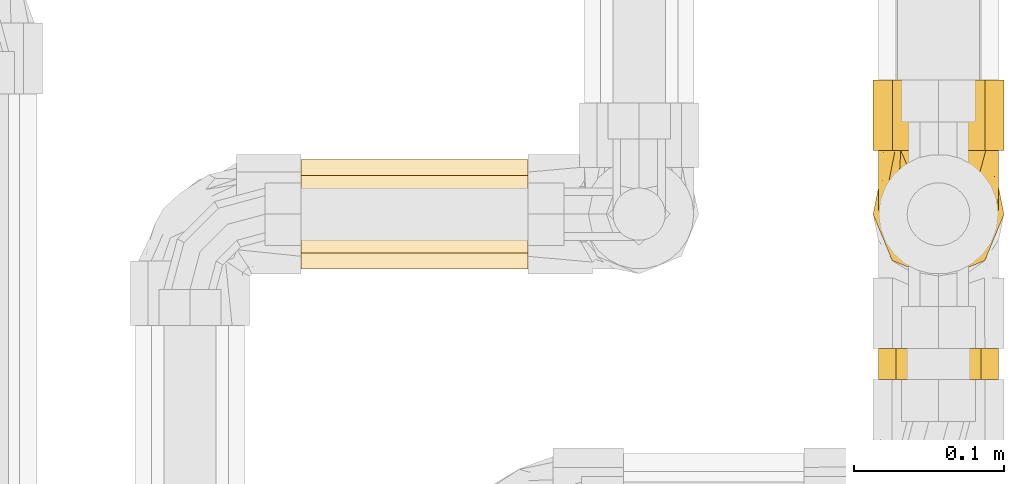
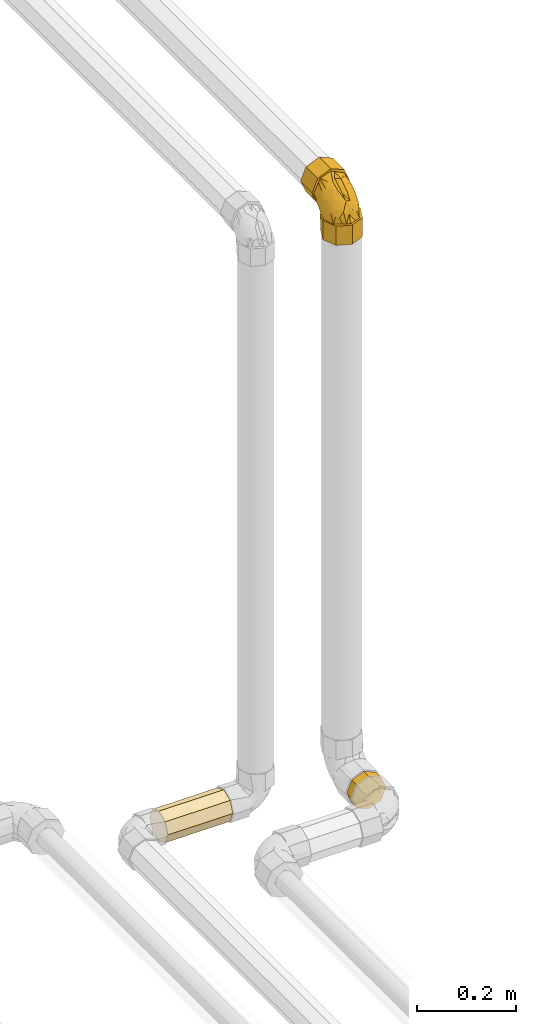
# One storey, part 272 of 652: 3 coverings.
"""IFC2X3 building model written with IfcOpenShell, lengths in millimetres."""

from ifc_helpers import new_model, entity, si_unit, converted_unit, direction, frame, origin, place, context, subcontext, project, spatial, faceted_brep, material, type_object, element, save


model = new_model("IFC2X3")

# Units and contexts
model_context = context("Model", 3, precision=0.01, world=frame((0.0, 0.0, 308426.39999999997)), true_north=direction((6.123233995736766e-17, 1.0)))
plan_context = context("Plan", 3, precision=0.01, world=frame((0.0, 0.0, 308426.39999999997)), true_north=direction((6.123233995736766e-17, 1.0)))
body_context = subcontext(model_context, "Body", "Model", "MODEL_VIEW")
ifc_project = project(units=[si_unit("LENGTHUNIT", "METRE", prefix="MILLI"), si_unit("AREAUNIT", "SQUARE_METRE"), si_unit("VOLUMEUNIT", "CUBIC_METRE"), converted_unit("PLANEANGLEUNIT", "DEGREE", entity("IfcPlaneAngleMeasure", 0.017453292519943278), si_unit("PLANEANGLEUNIT", "RADIAN"), dimensions=[0, 0, 0, 0, 0, 0, 0])], contexts=[model_context, plan_context])

# Site, building, storey
site_placement = place(None, origin())
site = spatial("IfcSite", under=ifc_project, at=site_placement, Name="Default", CompositionType="ELEMENT")
building_placement = place(site_placement, origin())
building = spatial("IfcBuilding", under=site, at=building_placement, CompositionType="ELEMENT")
storey_placement = place(building_placement, frame((0.0, 0.0, 1730.6999999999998)))
storey = spatial("IfcBuildingStorey", under=building, at=storey_placement, Name="EG_Produktion_FFB", CompositionType="ELEMENT", Elevation=1730.6999999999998)

# Coverings
ifc_material = material(Name="Dämmung - Armaflex-Schlauch")
covering_type = type_object("IfcCoveringType", Name="Rohrdämmung außen:Armaflex-Schlauch", PredefinedType="INSULATION")
covering_1_placement = place(storey_placement, frame((79576.77747546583, 78733.41483172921, 4910.280000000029)))
element("IfcCovering", 1, at=covering_1_placement, inside=storey, type_object=covering_type, material=ifc_material, Name="Rohrdämmung außen:Armaflex-Schlauch", ObjectType="Rohrdämmung außen:Armaflex-Schlauch", PredefinedType="INSULATION", context=body_context, shape_type="Brep", body=[
    faceted_brep([(1.5952722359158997, 87.85527223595, 89.72000000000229), (3.304941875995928, 87.85527223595, 81.2451084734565), (5.014611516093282, 87.85527223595, 72.77021694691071), (9.86881351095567, 87.85527223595, 65.62819273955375), (14.723015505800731, 87.85527223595, 58.48616853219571), (10.581665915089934, 87.85527223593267, 67.5997622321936), (6.440316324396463, 87.85527223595, 76.71335593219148), (5.315272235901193, 87.85527223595, 86.71350835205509), (8.85581188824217, 87.85527223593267, 94.40209709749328), (12.39635154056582, 87.85527223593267, 102.09068584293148), (16.24116612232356, 87.85527223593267, 110.44003397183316), (20.085980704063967, 87.85527223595, 118.78938210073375), (32.70062646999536, 87.85527223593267, 123.35795944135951), (45.315272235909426, 87.85527223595, 127.92653678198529), (53.1972475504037, 87.85527223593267, 123.99884456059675), (61.07922286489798, 87.85527223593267, 120.07115233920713), (68.96119817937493, 87.85527223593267, 116.14346011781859), (76.8431734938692, 87.85527223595, 112.21576789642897), (79.9118619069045, 87.85527223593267, 102.9785657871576), (82.61356707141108, 87.85527223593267, 94.84603706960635), (85.31527223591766, 87.85527223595, 86.71350835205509), (84.47655416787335, 87.85527223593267, 82.95558245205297), (83.6378360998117, 87.85527223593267, 79.19765655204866), (82.29640860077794, 87.85527223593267, 73.1873113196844), (80.95498110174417, 87.85527223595, 67.17696608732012), (75.90752896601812, 87.85527223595, 58.48616853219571), (80.76173096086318, 87.85527223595, 65.62819273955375), (85.61593295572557, 87.85527223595, 72.77021694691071), (87.32560259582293, 87.85527223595, 81.2451084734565), (89.03527223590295, 87.85527223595, 89.72000000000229), (85.55401064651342, 87.85527223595, 98.12450894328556), (82.63262647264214, 87.85527223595, 105.17735423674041), (79.43130359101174, 87.85527223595, 112.90603135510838), (76.22998070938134, 87.85527223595, 120.63470847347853), (68.50130359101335, 87.85527223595, 123.83603135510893), (60.772626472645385, 87.85527223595, 127.03735423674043), (53.719779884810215, 87.85527223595, 129.95873894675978), (45.315272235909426, 87.85527223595, 133.4400000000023), (36.910763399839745, 87.85527223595, 129.95873845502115), (29.85791799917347, 87.85527223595, 127.03735423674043), (22.129240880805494, 87.85527223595, 123.83603135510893), (14.400563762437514, 87.85527223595, 120.63470847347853), (11.19924088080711, 87.85527223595, 112.90603135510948), (7.997917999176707, 87.85527223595, 105.17735423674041), (5.076533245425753, 87.85527223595, 98.1245075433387), (85.55401120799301, 135.03527223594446, 81.31549241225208), (82.63262647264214, 135.03527223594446, 74.26264576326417), (79.43130359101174, 135.03527223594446, 66.53396864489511), (76.22998070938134, 135.03527223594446, 58.80529152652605), (68.50130359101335, 135.03527223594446, 55.60396864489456), (60.772626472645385, 135.03527223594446, 52.402645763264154), (53.0439493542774, 135.03527223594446, 49.20132288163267), (45.315272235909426, 135.03527223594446, 46.0), (36.910764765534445, 135.03527223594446, 49.481260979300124), (29.85791799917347, 135.03527223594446, 52.40264576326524), (22.129240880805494, 135.03527223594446, 55.603968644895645), (14.400563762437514, 135.03527223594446, 58.80529152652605), (11.19924088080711, 135.03527223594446, 66.53396864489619), (7.997917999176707, 135.03527223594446, 74.26264576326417), (4.796595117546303, 135.03527223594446, 81.99132288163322), (1.5952722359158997, 135.03527223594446, 89.72000000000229), (4.796595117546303, 135.03527223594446, 97.44867711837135), (7.997917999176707, 135.03527223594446, 105.17735423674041), (11.19924088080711, 135.03527223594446, 112.90603135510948), (14.400563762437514, 135.03527223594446, 120.63470847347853), (22.129240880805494, 135.03527223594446, 123.83603135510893), (29.85791799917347, 135.03527223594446, 127.03735423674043), (37.58659511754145, 135.03527223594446, 130.23867711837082), (45.315272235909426, 135.03527223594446, 133.4400000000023), (53.0439493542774, 135.03527223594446, 130.23867711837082), (60.772626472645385, 135.03527223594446, 127.03735423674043), (68.50130359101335, 135.03527223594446, 123.83603135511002), (76.22998070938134, 135.03527223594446, 120.63470847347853), (79.15136474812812, 135.03527223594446, 113.581863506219), (82.0727487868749, 135.03527223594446, 106.52901853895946), (85.55401051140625, 135.03527223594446, 98.12450926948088), (89.03527223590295, 135.03527223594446, 89.72000000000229), (45.315272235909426, 94.75489207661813, 46.0), (58.96774864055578, 93.70357391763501, 48.186299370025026), (67.43763880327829, 90.7794230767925, 53.336233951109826), (35.33597719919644, 93.56571370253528, 48.41075141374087), (25.35668216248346, 92.37653532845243, 50.82150282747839), (20.039848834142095, 90.11590378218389, 54.65383567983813), (1.5952722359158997, 45.31527223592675, 47.179999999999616), (5.076533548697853, 36.910763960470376, 47.179999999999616), (7.997917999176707, 29.857917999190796, 47.179999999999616), (11.19924088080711, 22.129240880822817, 47.179999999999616), (14.400563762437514, 14.40056376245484, 47.179999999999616), (22.129240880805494, 11.199240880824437, 47.179999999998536), (29.85791799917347, 7.9979179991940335, 47.179999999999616), (36.91076472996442, 5.076533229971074, 47.179999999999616), (45.315272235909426, 1.5952722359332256, 47.179999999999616), (53.71978088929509, 5.076533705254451, 47.179999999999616), (60.772626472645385, 7.9979179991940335, 47.179999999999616), (68.50130359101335, 11.199240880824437, 47.179999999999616), (76.22998070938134, 14.40056376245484, 47.179999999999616), (79.43130359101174, 22.129240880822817, 47.179999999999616), (82.63262647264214, 29.857917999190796, 47.179999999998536), (85.55401103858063, 36.91076423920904, 47.180000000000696), (89.03527223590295, 45.31527223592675, 47.179999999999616), (87.32560271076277, 53.79016348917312, 47.179999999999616), (85.61593318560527, 62.26505474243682, 47.179999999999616), (80.76173107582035, 69.4070792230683, 47.179999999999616), (75.90752896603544, 76.54910370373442, 47.179999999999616), (80.04887855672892, 67.43551000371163, 47.179999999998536), (84.19022814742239, 58.32191630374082, 47.179999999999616), (85.31527223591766, 48.321763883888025, 47.179999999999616), (81.7747326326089, 40.63317524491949, 47.179999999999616), (78.23419302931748, 32.94458660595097, 47.179999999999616), (74.38937839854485, 24.59523837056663, 47.179999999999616), (70.54456376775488, 16.245890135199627, 47.179999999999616), (57.929918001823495, 11.677312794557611, 47.179999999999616), (45.315272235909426, 7.108735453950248, 47.179999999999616), (37.66448146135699, 10.921225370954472, 47.179999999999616), (30.013690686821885, 14.733715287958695, 47.179999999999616), (21.900530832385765, 18.776609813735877, 47.179999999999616), (13.78737097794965, 22.81950433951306, 47.179999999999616), (10.718682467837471, 32.0567067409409, 47.179999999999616), (8.016977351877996, 40.1892353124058, 47.179999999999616), (5.315272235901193, 48.321763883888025, 47.179999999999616), (6.153990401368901, 52.07969022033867, 47.179999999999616), (6.992708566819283, 55.83761655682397, 47.179999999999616), (8.334135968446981, 61.847961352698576, 47.179999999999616), (9.675563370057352, 67.85830614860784, 47.179999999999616), (14.723015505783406, 76.54910370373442, 47.179999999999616), (9.868813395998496, 69.4070792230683, 47.179999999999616), (5.014611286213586, 62.26505474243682, 47.179999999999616), (3.3049417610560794, 53.79016348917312, 47.179999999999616), (76.22998070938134, 14.40056376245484, 0.0), (69.17713564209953, 11.479179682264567, 0.0), (62.12429057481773, 8.55779560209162, 0.0), (53.71978140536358, 5.07653391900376, 0.0), (45.315272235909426, 1.5952722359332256, 0.0), (37.58659511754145, 4.796595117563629, 0.0), (29.85791799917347, 7.9979179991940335, 0.0), (22.129240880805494, 11.199240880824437, 0.0), (14.400563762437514, 14.40056376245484, 0.0), (11.479179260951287, 21.453409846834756, 0.0), (8.557794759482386, 28.506255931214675, 0.0), (5.0765334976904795, 36.91076408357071, 0.0), (1.5952722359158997, 45.31527223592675, 0.0), (5.076533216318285, 53.71977970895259, 0.0), (7.997917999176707, 60.77262647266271, 0.0), (11.19924088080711, 68.50130359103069, 0.0), (14.400563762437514, 76.22998070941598, 0.0), (22.129240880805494, 79.43130359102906, 0.0), (29.85791799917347, 82.63262647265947, 0.0), (37.58659511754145, 85.83394935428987, 0.0), (45.315272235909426, 89.0352722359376, 0.0), (53.719779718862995, 85.55401125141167, 0.0), (60.772626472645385, 82.63262647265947, 0.0), (68.50130359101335, 79.43130359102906, 0.0), (76.22998070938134, 76.22998070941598, 0.0), (79.43130359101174, 68.50130359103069, 0.0), (82.63262647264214, 60.77262647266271, 0.0), (85.55401051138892, 53.71978150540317, 0.0), (89.03527223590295, 45.31527223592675, 0.0), (85.83394935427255, 37.58659511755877, 0.0), (82.63262647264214, 29.857917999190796, 0.0), (79.43130359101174, 22.129240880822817, 0.0), (55.29456727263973, 86.62452082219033, 41.46955853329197), (45.315272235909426, 89.03527223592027, 40.28038015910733), (65.27386230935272, 84.21376940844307, 42.658736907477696), (70.59069563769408, 80.38143655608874, 44.919368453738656), (31.662795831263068, 86.84897286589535, 41.331698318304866), (23.192905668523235, 81.69903828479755, 44.2558491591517), (77.8658762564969, 66.03128520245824, 102.49262153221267), (82.84467162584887, 55.76616911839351, 83.60598863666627), (82.52556184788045, 70.75443349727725, 95.30418911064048), (84.62352217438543, 53.30419653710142, 71.60753704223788), (85.31527223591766, 55.83084240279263, 59.43767565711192), (85.31527223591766, 56.9275078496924, 61.227851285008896), (85.31527223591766, 60.133714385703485, 66.46160129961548), (85.31527223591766, 63.339920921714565, 71.69535131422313), (84.76623114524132, 67.29968041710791, 83.66921529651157), (66.05232360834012, 72.12613198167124, 117.40427550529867), (72.22141766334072, 70.7415962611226, 111.85790663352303), (71.71080253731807, 25.80972513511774, 70.85529611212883), (78.22924719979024, 32.33216175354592, 67.52213053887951), (62.809495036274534, 26.756767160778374, 83.79232970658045), (64.91193348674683, 17.55875847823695, 64.52790148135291), (75.72471560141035, 45.32915426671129, 90.43203439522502), (73.02350929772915, 55.644074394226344, 102.66187322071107), (68.32454403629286, 40.24215163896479, 94.87008754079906), (79.98762004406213, 44.412957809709, 80.53327920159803), (45.315272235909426, 72.64450076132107, 118.67320029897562), (55.59342986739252, 65.21420834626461, 119.31424049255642), (54.752738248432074, 26.986586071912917, 89.03482051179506), (55.29732490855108, 16.736109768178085, 72.15163275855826), (82.65380542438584, 41.63565492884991, 66.97723217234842), (66.96108775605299, 57.10810929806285, 109.32130855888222), (55.48321494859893, 40.52288095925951, 103.31508755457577), (62.6247388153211, 44.54577280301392, 103.30286827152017), (45.315272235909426, 27.01218633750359, 90.91319084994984), (45.315272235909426, 15.314765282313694, 65.21083649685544), (45.315272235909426, 57.433729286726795, 109.41986381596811), (45.315272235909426, 42.22295781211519, 100.16652733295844), (85.31527223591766, 52.624635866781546, 54.20392564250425), (85.31527223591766, 68.57367143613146, 74.90155815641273), (85.31527223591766, 73.80742195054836, 78.10776499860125), (85.31527223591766, 80.83134709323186, 82.41063667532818), (85.31527223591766, 84.34330966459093, 84.56207251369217), (84.11551811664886, 63.3057983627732, 56.258861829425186), (84.10693973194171, 67.67516595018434, 62.03791845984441), (83.79173661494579, 78.5151450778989, 70.1056631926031), (84.6791196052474, 69.99439310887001, 68.23490048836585), (82.61861058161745, 75.12919781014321, 62.994335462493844), (81.34638912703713, 71.60390920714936, 54.79248262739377), (45.315272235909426, 91.62419216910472, 43.411080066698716), (69.27986326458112, 85.77416460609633, 48.83507298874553), (77.75187936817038, 79.8908501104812, 55.14442201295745), (81.12154294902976, 82.0024111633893, 64.13683945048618), (8.011933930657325, 72.04093705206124, 59.9060745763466), (9.284155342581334, 80.24279019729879, 63.43136347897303), (12.878664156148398, 79.89084918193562, 55.14442294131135), (5.315272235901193, 73.80742195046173, 78.10776499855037), (5.315272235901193, 75.59759657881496, 79.20442983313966), (5.315272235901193, 80.83134709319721, 82.41063667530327), (21.350681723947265, 86.2001997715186, 49.261107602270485), (9.509001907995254, 70.89843373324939, 53.03286108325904), (6.838807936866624, 64.92960889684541, 56.520126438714), (6.52360470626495, 72.99735331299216, 67.36010606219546), (5.951424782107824, 66.80037051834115, 65.04087848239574), (5.315272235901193, 63.339920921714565, 71.69535131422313), (6.5150263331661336, 78.7764098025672, 71.72947358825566), (5.315272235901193, 68.5736714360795, 74.90155815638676), (5.315272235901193, 50.47319987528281, 50.69196282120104), (5.315272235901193, 52.62463586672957, 54.20392564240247), (5.315272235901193, 56.927507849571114, 61.2278512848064), (5.315272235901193, 60.1337143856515, 66.46160129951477), (18.716447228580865, 22.972542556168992, 64.51661720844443), (24.918359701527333, 17.40545564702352, 62.89172374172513), (23.797144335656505, 25.59429383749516, 77.888432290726), (31.915050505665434, 32.30040737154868, 93.66203085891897), (23.59450518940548, 39.028871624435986, 94.88135093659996), (36.27135106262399, 65.25953143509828, 119.67254054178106), (33.851954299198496, 17.555433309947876, 72.87900692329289), (6.007022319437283, 63.427735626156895, 81.73107619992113), (7.977727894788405, 68.05540963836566, 93.40104666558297), (7.785872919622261, 51.42928442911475, 79.26910431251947), (10.643004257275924, 54.49855667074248, 90.61961422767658), (8.104982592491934, 39.731083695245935, 64.28083963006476), (5.86431334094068, 51.366056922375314, 67.73559194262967), (14.905829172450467, 44.60323981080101, 89.70612046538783), (12.764668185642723, 32.542651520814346, 69.00398843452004), (17.67010013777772, 32.29248434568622, 79.38016234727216), (18.662195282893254, 63.82623404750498, 108.77974526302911), (12.346778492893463, 68.19116674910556, 102.96803980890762), (27.95946128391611, 51.50952341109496, 108.54428370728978), (27.504504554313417, 70.38974905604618, 118.44866051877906), (37.02608684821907, 44.98128137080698, 107.59283931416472)], [[[0, 1, 2, 3, 4, 5, 6, 7, 8, 9, 10, 11, 12, 13, 14, 15, 16, 17, 18, 19, 20, 21, 22, 23, 24, 25, 26, 27, 28, 29, 30, 31, 32, 33, 34, 35, 36, 37, 38, 39, 40, 41, 42, 43, 44]], [[45, 46, 47, 48, 49, 50, 51, 52, 53, 54, 55, 56, 57, 58, 59, 60, 61, 62, 63, 64, 65, 66, 67, 68, 69, 70, 71, 72, 73, 74, 75, 76]], [[45, 27, 47, 46]], [[77, 51, 78]], [[78, 50, 79]], [[51, 77, 52]], [[25, 79, 49]], [[27, 45, 28]], [[48, 26, 25]], [[51, 50, 78]], [[76, 28, 45]], [[76, 29, 28]], [[47, 27, 26]], [[26, 48, 47]], [[25, 49, 48]], [[79, 50, 49]], [[30, 29, 76, 75, 74, 73, 72, 33, 32, 31]], [[33, 72, 71, 70, 69, 68, 37, 36, 35, 34]], [[0, 44, 43, 42, 41, 64, 63, 62, 61, 60]], [[66, 65, 64, 41, 40, 39, 38, 37, 68, 67]], [[3, 57, 56]], [[60, 59, 0]], [[80, 54, 53]], [[58, 2, 1]], [[58, 57, 2]], [[55, 81, 82, 4]], [[53, 77, 80]], [[2, 57, 3]], [[1, 59, 58]], [[56, 4, 3]], [[54, 80, 81]], [[0, 59, 1]], [[53, 52, 77]], [[55, 4, 56]], [[55, 54, 81]], [[83, 84, 85, 86, 87, 88, 89, 90, 91, 92, 93, 94, 95, 96, 97, 98, 99, 100, 101, 102, 103, 104, 105, 106, 107, 108, 109, 110, 111, 112, 113, 114, 115, 116, 117, 118, 119, 120, 121, 122, 123, 124, 125, 126, 127]], [[128, 129, 130, 131, 132, 133, 134, 135, 136, 137, 138, 139, 140, 141, 142, 143, 144, 145, 146, 147, 148, 149, 150, 151, 152, 153, 154, 155, 156, 157, 158, 159]], [[130, 129, 128, 95, 94, 93, 92, 91, 132, 131]], [[95, 128, 159, 158, 157, 156, 99, 98, 97, 96]], [[102, 153, 152]], [[160, 150, 149]], [[99, 156, 100]], [[154, 153, 101, 155]], [[155, 101, 100]], [[149, 161, 160]], [[101, 153, 102]], [[151, 162, 163, 103]], [[152, 103, 102]], [[150, 160, 162]], [[156, 155, 100]], [[149, 148, 161]], [[151, 103, 152]], [[151, 150, 162]], [[125, 144, 143]], [[140, 83, 127]], [[161, 147, 164]], [[164, 146, 165]], [[147, 161, 148]], [[144, 125, 124]], [[126, 141, 127]], [[143, 142, 141, 126]], [[124, 145, 144]], [[140, 127, 141]], [[147, 146, 164]], [[143, 126, 125]], [[124, 165, 145]], [[165, 146, 145]], [[84, 83, 140, 139, 138, 137, 136, 87, 86, 85]], [[87, 136, 135, 134, 133, 132, 91, 90, 89, 88]], [[166, 167, 168]], [[169, 170, 171, 172, 173]], [[19, 168, 174]], [[17, 166, 18]], [[175, 176, 16]], [[177, 109, 178]], [[179, 180, 177]], [[181, 182, 183]], [[166, 181, 184]], [[14, 185, 186]], [[187, 188, 179]], [[184, 189, 167]], [[182, 181, 166]], [[176, 175, 190]], [[186, 191, 192]], [[166, 184, 167]], [[169, 174, 167]], [[188, 193, 194]], [[110, 109, 177]], [[190, 175, 186]], [[175, 16, 15]], [[186, 175, 15]], [[176, 190, 182]], [[186, 15, 14]], [[186, 195, 191]], [[196, 193, 187]], [[179, 183, 192]], [[184, 178, 189]], [[191, 195, 196]], [[178, 109, 108]], [[183, 177, 181]], [[178, 108, 189]], [[181, 177, 178]], [[189, 108, 107]], [[107, 106, 197, 170]], [[170, 169, 107]], [[169, 173, 174]], [[167, 189, 169]], [[107, 169, 189]], [[174, 173, 198, 199, 200, 201, 20]], [[174, 20, 19]], [[168, 19, 18]], [[166, 168, 18]], [[174, 168, 167]], [[111, 180, 188]], [[110, 177, 180]], [[194, 112, 111]], [[178, 184, 181]], [[188, 180, 179]], [[111, 110, 180]], [[179, 191, 187]], [[111, 188, 194]], [[187, 191, 196]], [[193, 188, 187]], [[192, 183, 190]], [[177, 183, 179]], [[166, 17, 176]], [[183, 182, 190]], [[166, 176, 182]], [[17, 16, 176]], [[185, 14, 13]], [[185, 195, 186]], [[186, 192, 190]], [[179, 192, 191]], [[172, 202, 203]], [[204, 205, 206]], [[23, 22, 21, 20, 201, 200, 199]], [[202, 104, 207]], [[208, 77, 78]], [[203, 173, 172]], [[203, 202, 207]], [[105, 104, 202]], [[163, 162, 209]], [[203, 205, 173]], [[197, 106, 105, 171, 170]], [[207, 206, 203]], [[210, 207, 103]], [[104, 103, 207]], [[160, 161, 208]], [[210, 163, 209]], [[206, 207, 210]], [[210, 25, 211]], [[204, 211, 24]], [[209, 25, 210]], [[78, 79, 25, 209]], [[105, 202, 171]], [[210, 103, 163]], [[78, 209, 162]], [[205, 203, 206]], [[172, 171, 202]], [[206, 211, 204]], [[204, 198, 205]], [[204, 24, 23]], [[210, 211, 206]], [[199, 204, 23]], [[198, 204, 199]], [[198, 173, 205]], [[25, 24, 211]], [[78, 160, 208]], [[78, 162, 160]], [[212, 213, 214]], [[6, 215, 216, 217, 7]], [[82, 218, 214]], [[219, 123, 220]], [[214, 213, 4]], [[5, 4, 213]], [[221, 222, 223]], [[208, 80, 77]], [[218, 124, 214]], [[161, 164, 208]], [[214, 124, 219]], [[6, 5, 224]], [[82, 81, 218]], [[224, 5, 213]], [[225, 224, 221]], [[220, 222, 212]], [[122, 121, 120, 119, 226, 227, 228]], [[164, 165, 124, 218]], [[221, 223, 225]], [[213, 212, 221]], [[221, 224, 213]], [[6, 224, 215]], [[214, 4, 82]], [[164, 218, 81]], [[222, 221, 212]], [[225, 215, 224]], [[212, 219, 220]], [[220, 229, 222]], [[220, 123, 122]], [[214, 219, 212]], [[228, 220, 122]], [[229, 220, 228]], [[229, 223, 222]], [[124, 123, 219]], [[164, 80, 208]], [[164, 81, 80]], [[230, 115, 231]], [[232, 233, 234]], [[12, 235, 13]], [[113, 194, 236]], [[237, 216, 215, 225, 223]], [[236, 232, 231]], [[238, 239, 240]], [[230, 231, 232]], [[118, 241, 242]], [[243, 244, 245]], [[246, 10, 247]], [[116, 244, 117]], [[244, 243, 240]], [[244, 239, 241]], [[248, 249, 246]], [[247, 238, 240]], [[237, 242, 239]], [[232, 236, 233]], [[250, 193, 196, 195]], [[113, 236, 114]], [[233, 248, 234]], [[113, 112, 194]], [[193, 236, 194]], [[236, 193, 233]], [[233, 250, 248]], [[231, 115, 114]], [[248, 250, 235]], [[248, 235, 249]], [[235, 250, 195]], [[235, 195, 185, 13]], [[235, 12, 249]], [[12, 11, 249]], [[246, 249, 11]], [[10, 9, 247]], [[234, 246, 243]], [[246, 234, 248]], [[245, 234, 243]], [[246, 11, 10]], [[247, 9, 238]], [[243, 246, 247]], [[238, 9, 8]], [[8, 7, 217, 216]], [[216, 237, 8]], [[237, 223, 242]], [[239, 238, 237]], [[8, 237, 238]], [[242, 223, 229, 228, 227, 226, 119]], [[242, 119, 118]], [[241, 118, 117]], [[244, 241, 117]], [[242, 241, 239]], [[244, 240, 239]], [[247, 240, 243]], [[193, 250, 233]], [[236, 231, 114]], [[230, 232, 245]], [[244, 116, 230]], [[234, 245, 232]], [[244, 230, 245]], [[116, 115, 230]]]),
])
covering_2_placement = place(storey_placement, frame((79580.49747546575, 78668.450103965, 3558.404727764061)))
element("IfcCovering", 2, at=covering_2_placement, inside=storey, type_object=covering_type, material=ifc_material, Name="Rohrdämmung außen:Armaflex-Schlauch", ObjectType="Rohrdämmung außen:Armaflex-Schlauch", PredefinedType="INSULATION", context=body_context, shape_type="Brep", body=[
    faceted_brep([(69.87954348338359, 20.560000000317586, 13.31100098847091), (62.80847567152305, 20.56000000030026, 10.382068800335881), (55.737407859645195, 20.56000000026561, 7.453136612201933), (48.66634004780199, 20.560000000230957, 4.524204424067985), (41.595272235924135, 20.560000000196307, 1.595272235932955), (33.15635252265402, 20.560000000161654, 5.090787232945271), (27.45313661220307, 20.560000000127, 7.453136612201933), (20.382068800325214, 20.56000000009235, 10.382068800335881), (13.311000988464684, 20.560000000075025, 13.31100098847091), (10.382068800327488, 20.5600000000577, 20.382068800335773), (7.453136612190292, 20.56000000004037, 27.453136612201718), (4.524204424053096, 20.56000000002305, 34.52420442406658), (1.5952722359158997, 20.560000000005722, 41.595272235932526), (5.090787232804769, 20.560000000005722, 50.0341919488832), (7.453136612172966, 20.560000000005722, 55.73740785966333), (10.382068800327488, 20.56000000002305, 62.80847567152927), (13.311000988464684, 20.56000000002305, 69.87954348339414), (20.382068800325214, 20.5600000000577, 72.80847567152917), (27.45313661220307, 20.56000000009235, 75.73740785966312), (34.524204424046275, 20.560000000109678, 78.66634004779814), (41.595272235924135, 20.560000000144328, 81.5952722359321), (50.03419194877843, 20.56000000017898, 78.09975723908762), (55.737407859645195, 20.560000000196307, 75.7374078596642), (62.80847567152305, 20.560000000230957, 72.80847567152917), (69.87954348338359, 20.56000000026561, 69.87954348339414), (72.80847567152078, 20.560000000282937, 62.80847567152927), (75.73740785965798, 20.56000000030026, 55.73740785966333), (78.66634004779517, 20.560000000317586, 48.66634004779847), (81.59527223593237, 20.560000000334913, 41.595272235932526), (78.09975723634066, 20.560000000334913, 33.15635251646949), (75.73740785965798, 20.560000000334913, 27.453136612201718), (72.80847567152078, 20.560000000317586, 20.38206880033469), (69.87954348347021, 0.0, 69.8795434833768), (58.47311166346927, 0.0, 74.6042422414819), (50.034191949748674, 0.0, 78.09975723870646), (41.595272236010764, 0.0, 81.59527223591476), (34.524204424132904, 0.0, 78.66634004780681), (27.453136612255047, 0.0, 75.73740785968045), (20.382068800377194, 0.0, 72.80847567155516), (13.311000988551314, 0.0, 69.8795434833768), (8.586302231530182, 0.0, 58.47311166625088), (5.090787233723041, 0.0, 50.03419195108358), (1.595272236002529, 0.0, 41.595272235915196), (4.524204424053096, 0.0, 34.52420442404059), (7.453136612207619, 0.0, 27.453136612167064), (10.38206880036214, 0.0, 20.38206880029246), (13.311000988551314, 0.0, 13.311000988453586), (24.71743279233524, 0.0, 8.58630223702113), (33.15635251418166, 0.0, 5.090787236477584), (41.595272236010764, 0.0, 1.595272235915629), (50.0341944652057, 0.0, 5.090788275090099), (55.737407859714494, 0.0, 7.453136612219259), (62.8084756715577, 0.0, 10.38206880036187), (69.87954348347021, 0.0, 13.311000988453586), (74.60424214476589, 0.0, 24.717432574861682), (78.09975719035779, 0.0, 33.15635240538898), (81.595272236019, 0.0, 41.595272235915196), (78.6663400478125, 0.0, 48.66634004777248), (75.7374078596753, 0.0, 55.73740785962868), (72.80847567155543, 0.0, 62.80847567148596)], [[[0, 1, 2, 3, 4, 5, 6, 7, 8, 9, 10, 11, 12, 13, 14, 15, 16, 17, 18, 19, 20, 21, 22, 23, 24, 25, 26, 27, 28, 29, 30, 31]], [[32, 33, 34, 35, 36, 37, 38, 39, 40, 41, 42, 43, 44, 45, 46, 47, 48, 49, 50, 51, 52, 53, 54, 55, 56, 57, 58, 59]], [[55, 54, 53, 0, 31, 30, 29, 28, 56]], [[50, 49, 4, 3, 2, 1, 0, 53, 52, 51]], [[48, 47, 46, 8, 7, 6, 5, 4, 49]], [[8, 46, 45, 44, 43, 42, 12, 11, 10, 9]], [[41, 40, 39, 16, 15, 14, 13, 12, 42]], [[16, 39, 38, 37, 36, 35, 20, 19, 18, 17]], [[34, 33, 32, 24, 23, 22, 21, 20, 35]], [[24, 32, 59, 58, 57, 56, 28, 27, 26, 25]]]),
])
covering_3_placement = place(storey_placement, frame((79196.34274770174, 78740.63483172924, 3561.904727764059)))
element("IfcCovering", 3, at=covering_3_placement, inside=storey, type_object=covering_type, material=ifc_material, Name="Rohrdämmung außen:Armaflex-Schlauch", ObjectType="Rohrdämmung außen:Armaflex-Schlauch", PredefinedType="INSULATION", context=body_context, shape_type="Brep", body=[
    faceted_brep([(0.0, 63.9046697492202, 63.90466974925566), (0.0, 66.57732037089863, 57.45232037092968), (0.0, 69.24997099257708, 50.99997099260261), (0.0, 71.9226216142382, 44.54762161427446), (0.0, 74.59527223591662, 38.09527223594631), (0.0, 71.92262161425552, 31.642922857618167), (0.0, 69.24997099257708, 25.190573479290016), (0.0, 66.57732037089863, 18.738224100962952), (0.0, 63.9046697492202, 12.28587472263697), (0.0, 57.45232037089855, 9.613224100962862), (0.0, 50.99997099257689, 6.940573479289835), (0.0, 44.54762161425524, 4.267922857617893), (0.0, 38.09527223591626, 1.5952722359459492), (0.0, 30.109137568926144, 4.9032375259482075), (0.0, 25.190573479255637, 6.940573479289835), (0.0, 18.738224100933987, 9.613224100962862), (0.0, 12.285874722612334, 12.28587472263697), (0.0, 9.613224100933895, 18.738224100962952), (0.0, 6.9405734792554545, 25.190573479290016), (0.0, 4.26792285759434, 31.642922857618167), (0.0, 1.5952722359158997, 38.09527223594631), (0.0, 4.903237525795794, 46.08140690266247), (0.0, 6.9405734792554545, 50.999970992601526), (0.0, 9.613224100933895, 57.45232037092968), (0.0, 12.285874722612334, 63.90466974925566), (0.0, 18.738224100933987, 66.57732037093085), (0.0, 25.190573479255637, 69.24997099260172), (0.0, 31.64292285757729, 71.92262161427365), (0.0, 38.09527223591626, 74.59527223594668), (0.0, 46.081406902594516, 71.28730694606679), (0.0, 50.99997099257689, 69.2499709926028), (0.0, 57.45232037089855, 66.57732037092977), (151.5000000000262, 12.285874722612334, 63.90466974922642), (151.5000000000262, 9.613224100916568, 57.452320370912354), (151.5000000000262, 6.9405734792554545, 50.99997099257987), (151.5000000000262, 4.26792285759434, 44.54762161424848), (151.5000000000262, 1.5952722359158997, 38.09527223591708), (151.5000000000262, 4.903237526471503, 30.109137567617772), (151.50000000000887, 8.211202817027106, 22.123002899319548), (151.50000000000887, 12.285874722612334, 12.285874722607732), (151.50000000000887, 18.73822410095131, 9.61322410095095), (151.50000000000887, 25.190573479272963, 6.940573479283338), (151.50000000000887, 31.642922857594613, 4.267922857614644), (151.50000000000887, 38.09527223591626, 1.595272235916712), (151.50000000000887, 46.081406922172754, 4.9032375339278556), (151.5000000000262, 54.067541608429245, 8.21120283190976), (151.50000000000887, 63.9046697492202, 12.285874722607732), (151.5000000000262, 66.57732037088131, 18.738224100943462), (151.5000000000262, 69.24997099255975, 25.19057347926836), (151.5000000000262, 71.9226216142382, 31.64292285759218), (151.5000000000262, 74.59527223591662, 38.09527223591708), (151.5000000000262, 71.28730694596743, 46.081406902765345), (151.5000000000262, 67.97934165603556, 54.0675415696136), (151.5000000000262, 63.9046697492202, 63.90466974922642), (151.5000000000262, 57.45232037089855, 66.57732037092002), (151.5000000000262, 50.99997099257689, 69.24997099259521), (151.5000000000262, 44.54762161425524, 71.92262161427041), (151.5000000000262, 38.09527223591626, 74.59527223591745), (151.5000000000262, 30.10913756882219, 71.28730694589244), (151.5000000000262, 22.123002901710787, 67.97934165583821)], [[[0, 1, 2, 3, 4, 5, 6, 7, 8, 9, 10, 11, 12, 13, 14, 15, 16, 17, 18, 19, 20, 21, 22, 23, 24, 25, 26, 27, 28, 29, 30, 31]], [[32, 33, 34, 35, 36, 37, 38, 39, 40, 41, 42, 43, 44, 45, 46, 47, 48, 49, 50, 51, 52, 53, 54, 55, 56, 57, 58, 59]], [[47, 46, 8, 7, 6, 5, 4, 50, 49, 48]], [[46, 45, 44, 43, 12, 11, 10, 9, 8]], [[36, 20, 19, 18, 17, 16, 39, 38, 37]], [[15, 14, 13, 12, 43, 42, 41, 40, 39, 16]], [[57, 28, 27, 26, 25, 24, 32, 59, 58]], [[23, 22, 21, 20, 36, 35, 34, 33, 32, 24]], [[50, 4, 3, 2, 1, 0, 53, 52, 51]], [[31, 30, 29, 28, 57, 56, 55, 54, 53, 0]]]),
])

save(model, "model.ifc")
